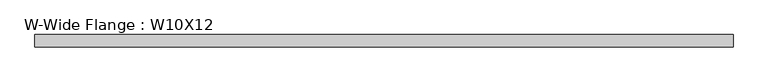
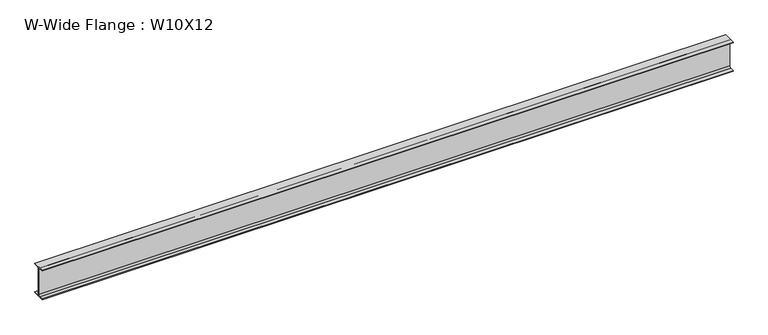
"""IFC4 building model written with IfcOpenShell, lengths in millimetres: beam geometry, W-Wide Flange : W10X12."""

import ifcopenshell
import ifcopenshell.guid

model = None  # the IFC model being written
_history = None  # IfcOwnerHistory: only IFC2X3 demands one
_inside = {}  # id of a spatial element -> (the spatial element, [elements in it])
_under = {}  # id of a project, library or spatial element -> (it, [spatial elements below it])
_declared = {}  # id of a project -> (the project, [libraries it declares])
_typed = {}  # id of a type object -> (the type object, [elements of that type])
_made_of = {}  # id of a material, layer set ... -> (it, [elements and type objects made of it])


def new_model(schema):
    """Start an empty IFC model of exactly this schema.

    Asked for "IFC4X3", IfcOpenShell would pick the latest addendum, in which some entities
    have other attributes; the version numbers below select the first issue.
    IFC2X3 requires an IfcOwnerHistory on every rooted entity: one is made here for all.
    """
    global model, _history
    if schema == "IFC4X3":
        model = ifcopenshell.file(schema_version=(4, 3, 0, 0))
    else:
        model = ifcopenshell.file(schema=schema)
    _inside.clear()
    _under.clear()
    _declared.clear()
    _typed.clear()
    _made_of.clear()
    _history = None
    if model.schema == "IFC2X3":
        org = make("IfcOrganization", Name="unknown")
        user = make(
            "IfcPersonAndOrganization",
            ThePerson=make("IfcPerson", FamilyName="unknown"),
            TheOrganization=org,
        )
        app = make(
            "IfcApplication",
            ApplicationDeveloper=org,
            Version="unknown",
            ApplicationFullName="unknown",
            ApplicationIdentifier="unknown",
        )
        _history = make(
            "IfcOwnerHistory",
            OwningUser=user,
            OwningApplication=app,
            ChangeAction="ADDED",
            CreationDate=0,
        )
    return model


def make(cls, **values):
    """One entity of the class cls with the attributes given. An attribute that is None is left unset."""
    return model.create_entity(
        cls, **{name: value for name, value in values.items() if value is not None}
    )


def rooted(cls, **values):
    """An entity with a GlobalId (a new one), such as an element, a storey or a relation."""
    return make(cls, GlobalId=ifcopenshell.guid.new(), OwnerHistory=_history, **values)


def si_unit(unit_type, name, prefix=None):
    """IfcSIUnit, for example si_unit("LENGTHUNIT", "METRE", prefix="MILLI")."""
    return make("IfcSIUnit", UnitType=unit_type, Prefix=prefix, Name=name)


def assignment(units):
    """IfcUnitAssignment: the units of a project."""
    return None if units is None else make("IfcUnitAssignment", Units=units)


def point(xyz):
    """IfcCartesianPoint."""
    return None if xyz is None else make("IfcCartesianPoint", Coordinates=xyz)


def direction(xyz):
    """IfcDirection."""
    return None if xyz is None else make("IfcDirection", DirectionRatios=xyz)


def frame(location, z_axis=None, x_axis=None):
    """IfcAxis2Placement3D, a coordinate frame: its origin and axes. An axis left out is left unset."""
    return make(
        "IfcAxis2Placement3D",
        Location=point(location),
        Axis=direction(z_axis),
        RefDirection=direction(x_axis),
    )


def frame_2d(location, x_axis=None):
    """IfcAxis2Placement2D, a coordinate frame in the plane: its origin and x axis."""
    return make(
        "IfcAxis2Placement2D", Location=point(location), RefDirection=direction(x_axis)
    )


def origin():
    """The frame at (0, 0, 0) with its axes left unset."""
    return frame((0.0, 0.0, 0.0))


def place(relative_to, where):
    """IfcLocalPlacement: puts the frame where relative to a parent placement (None: the world)."""
    return make(
        "IfcLocalPlacement", PlacementRelTo=relative_to, RelativePlacement=where
    )


def context(
    kind, dimensions, precision=None, world=None, true_north=None, identifier=None
):
    """IfcGeometricRepresentationContext, for example the 3D "Model" context."""
    return make(
        "IfcGeometricRepresentationContext",
        ContextIdentifier=identifier,
        ContextType=kind,
        CoordinateSpaceDimension=dimensions,
        Precision=precision,
        WorldCoordinateSystem=world,
        TrueNorth=true_north,
    )


def project(units=None, contexts=None):
    """IfcProject with its units and contexts."""
    return rooted(
        "IfcProject",
        Name="project",
        RepresentationContexts=contexts,
        UnitsInContext=assignment(units),
    )


def spatial(cls, under=None, at=None, **own):
    """A site, building, storey or space (cls), placed at a placement, below another one or the project."""
    s = rooted(cls, ObjectPlacement=at, **own)
    if under is not None:
        _under.setdefault(under.id(), (under, []))[1].append(s)
    return s


def polyline(points):
    """IfcPolyline through the points."""
    return make("IfcPolyline", Points=[point(p) for p in points])


def circle_curve(where, radius):
    """IfcCircle in the frame where."""
    return make("IfcCircle", Position=where, Radius=radius)


def trimmed(basis, trim1, trim2, sense, master):
    """IfcTrimmedCurve: the piece of a basis curve between two trims."""
    return make(
        "IfcTrimmedCurve",
        BasisCurve=basis,
        Trim1=trim1,
        Trim2=trim2,
        SenseAgreement=sense,
        MasterRepresentation=master,
    )


def segment(curve, same_sense, transition):
    """IfcCompositeCurveSegment."""
    return make(
        "IfcCompositeCurveSegment",
        Transition=transition,
        SameSense=same_sense,
        ParentCurve=curve,
    )


def composite_curve(segments, self_intersect=None):
    """IfcCompositeCurve: segments joined end to end."""
    return make("IfcCompositeCurve", Segments=segments, SelfIntersect=self_intersect)


def outline(outer, holes=None, kind="AREA"):
    """IfcArbitraryClosedProfileDef: a profile drawn as a closed curve; with holes, ...WithVoids."""
    if holes is None:
        return make("IfcArbitraryClosedProfileDef", ProfileType=kind, OuterCurve=outer)
    return make(
        "IfcArbitraryProfileDefWithVoids",
        ProfileType=kind,
        OuterCurve=outer,
        InnerCurves=holes,
    )


def extrude(swept, where, along, depth):
    """IfcExtrudedAreaSolid: the profile swept, set in the frame where, extruded along a direction by depth."""
    return make(
        "IfcExtrudedAreaSolid",
        SweptArea=swept,
        Position=where,
        ExtrudedDirection=direction(along),
        Depth=depth,
    )


def shape(context_of_items, identifier, shape_type, items):
    """IfcShapeRepresentation: the items that make up one representation, for example the "Body"."""
    return make(
        "IfcShapeRepresentation",
        ContextOfItems=context_of_items,
        RepresentationIdentifier=identifier,
        RepresentationType=shape_type,
        Items=items,
    )


def source(mapping_origin, context_of_items, identifier, shape_type, items):
    """IfcRepresentationMap: a shape defined once, which mapped items show again and again."""
    return make(
        "IfcRepresentationMap",
        MappingOrigin=mapping_origin,
        MappedRepresentation=shape(context_of_items, identifier, shape_type, items),
    )


def transform(
    local_origin,
    x_axis=None,
    y_axis=None,
    z_axis=None,
    scale=None,
    scale2=None,
    scale3=None,
    uniform=True,
):
    """IfcCartesianTransformationOperator3D, or its non-uniform kind. x_axis, y_axis, z_axis: its Axis1, 2, 3."""
    if uniform:
        return make(
            "IfcCartesianTransformationOperator3D",
            Axis1=direction(x_axis),
            Axis2=direction(y_axis),
            LocalOrigin=point(local_origin),
            Scale=scale,
            Axis3=direction(z_axis),
        )
    return make(
        "IfcCartesianTransformationOperator3DnonUniform",
        Axis1=direction(x_axis),
        Axis2=direction(y_axis),
        LocalOrigin=point(local_origin),
        Scale=scale,
        Axis3=direction(z_axis),
        Scale2=scale2,
        Scale3=scale3,
    )


def mapped(mapping_source, mapping_target):
    """IfcMappedItem: shows the shape of a source again, moved by a transform."""
    return make(
        "IfcMappedItem", MappingSource=mapping_source, MappingTarget=mapping_target
    )


def made_of(thing, what):
    """Note that an element or type object is made of a material, layer set ...; save() writes the relation."""
    if what is not None:
        _made_of.setdefault(what.id(), (what, []))[1].append(thing)
    return thing


def element(
    cls,
    number,
    at=None,
    inside=None,
    cuts=None,
    type_object=None,
    material=None,
    context=None,
    identifier="Body",
    shape_type=None,
    held_by="IfcProductDefinitionShape",
    body=None,
    shapes=None,
    **own,
):
    """One element of the class cls, such as IfcWall. Its Tag is "e" and its number.

    at: its placement. inside: the storey or other place that contains it. cuts: it is an
    opening in that element (IfcRelVoidsElement). A single representation is given by context,
    identifier, shape_type and body (its items); several are given by shapes. held_by: the class
    of the entity that holds the representations. save() writes the other relations.
    """
    e = rooted(cls, Tag="e%d" % number, ObjectPlacement=at, **own)
    if body is not None:
        shapes = [shape(context, identifier, shape_type, body)]
    if shapes is not None:
        e.Representation = make(held_by, Representations=shapes)
    if inside is not None:
        _inside.setdefault(inside.id(), (inside, []))[1].append(e)
    if cuts is not None:
        rooted(
            "IfcRelVoidsElement", RelatingBuildingElement=cuts, RelatedOpeningElement=e
        )
    if type_object is not None:
        _typed.setdefault(type_object.id(), (type_object, []))[1].append(e)
    return made_of(e, material)


def aggregate(whole, parts):
    """IfcRelAggregates: a whole, such as a stair, and the parts it consists of."""
    return rooted("IfcRelAggregates", RelatingObject=whole, RelatedObjects=parts)


def save(model, path):
    """Write the relations noted so far, then the file.

    IfcRelAggregates (storeys below a building ...), IfcRelContainedInSpatialStructure (elements
    in a storey), IfcRelDefinesByType, IfcRelAssociatesMaterial and IfcRelDeclares: one each for
    every whole, place, type object, material and project.
    """
    for whole, parts in _under.values():
        aggregate(whole, parts)
    for where, things in _inside.values():
        rooted(
            "IfcRelContainedInSpatialStructure",
            RelatedElements=things,
            RelatingStructure=where,
        )
    for kind, things in _typed.values():
        rooted("IfcRelDefinesByType", RelatedObjects=things, RelatingType=kind)
    for what, things in _made_of.values():
        rooted("IfcRelAssociatesMaterial", RelatedObjects=things, RelatingMaterial=what)
    for by, libraries in _declared.values():
        rooted("IfcRelDeclares", RelatingContext=by, RelatedDefinitions=libraries)
    model.write(path)


def w_wide_flange_w10x12_0153ac9a(model_context):
    return source(origin(), model_context, "Body", "SweptSolid", [
        extrude(outline(composite_curve([segment(polyline([(50.292, -120.015), (50.292, -125.349), (-50.292, -125.349), (-50.292, -120.015), (-16.129, -120.015)]), True, "CONTINUOUS"), segment(trimmed(circle_curve(frame_2d((-16.129, -106.299)), 13.716), [point((-16.129, -120.015))], [point((-2.413, -106.299))], True, "CARTESIAN"), True, "CONTINUOUS"), segment(polyline([(-2.413, -106.299), (-2.413, 106.299)]), True, "CONTINUOUS"), segment(trimmed(circle_curve(frame_2d((-16.129, 106.299)), 13.716), [point((-2.413, 106.299))], [point((-16.129, 120.015))], True, "CARTESIAN"), True, "CONTINUOUS"), segment(polyline([(-16.129, 120.015), (-50.292, 120.015), (-50.292, 125.349), (50.292, 125.349), (50.292, 120.015), (16.129, 120.015)]), True, "CONTINUOUS"), segment(trimmed(circle_curve(frame_2d((16.129, 106.299)), 13.716), [point((16.129, 120.015))], [point((2.413, 106.299))], True, "CARTESIAN"), True, "CONTINUOUS"), segment(polyline([(2.413, 106.299), (2.413, -106.299)]), True, "CONTINUOUS"), segment(trimmed(circle_curve(frame_2d((16.129, -106.299)), 13.716), [point((2.413, -106.299))], [point((16.129, -120.015))], True, "CARTESIAN"), True, "CONTINUOUS"), segment(polyline([(16.129, -120.015), (50.292, -120.015)]), True, "CONTINUOUS")], self_intersect=False)), frame((-2796.7470724, 0.0, 0.0), z_axis=(1.0, 0.0, 0.0), x_axis=(0.0, 1.0, 0.0)), (0.0, 0.0, 1.0), 5600.7),
    ])


if __name__ == "__main__":
    model = new_model("IFC4")
    model_context = context("Model", 3, world=origin())
    ifc_project = project(units=[si_unit("LENGTHUNIT", "METRE", prefix="MILLI")], contexts=[model_context])
    site = spatial("IfcSite", under=ifc_project)
    building = spatial("IfcBuilding", under=site)
    placement = place(None, origin())
    w_wide_flange_w10x12_shape = w_wide_flange_w10x12_0153ac9a(model_context)
    element("IfcBeam", 1, ObjectType="W-Wide Flange : W10X12", at=placement, inside=building, context=model_context, shape_type="MappedRepresentation", body=[
        mapped(w_wide_flange_w10x12_shape, transform((0.0, 0.0, 0.0), x_axis=(1.0, 0.0, 0.0), y_axis=(0.0, 1.0, 0.0), z_axis=(0.0, 0.0, 1.0))),
    ])
    save(model, "model.ifc")
